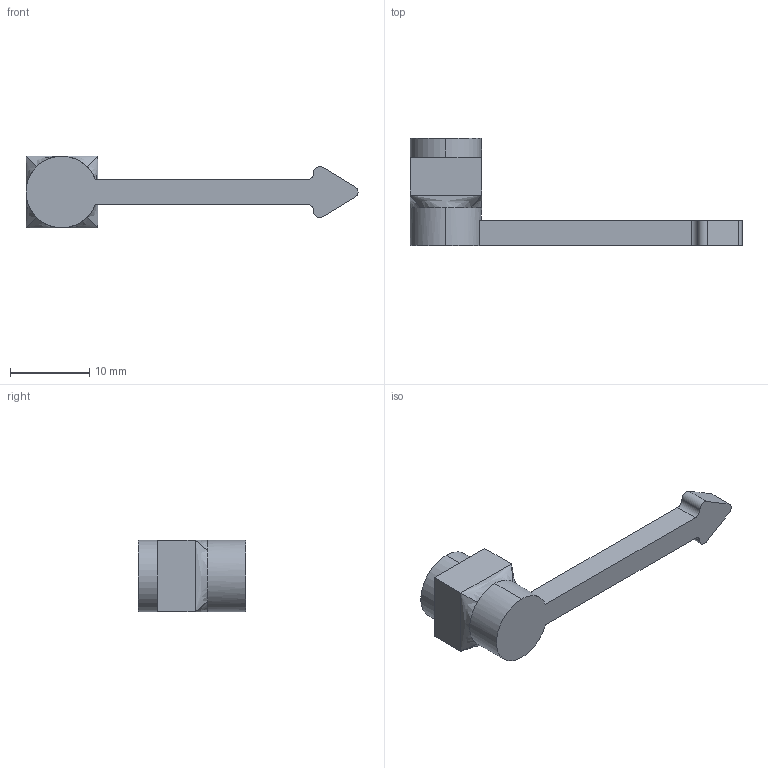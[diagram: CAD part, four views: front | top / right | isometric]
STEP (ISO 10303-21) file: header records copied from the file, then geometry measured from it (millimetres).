
FILE_DESCRIPTION (( 'STEP AP214' ), '1' );
FILE_NAME ('7 - Angle Pointer.STEP', '2022-11-25T05:45:19', ( '' ), ( '' ), 'SwSTEP 2.0', 'SolidWorks 2021', '' );
FILE_SCHEMA (( 'AUTOMOTIVE_DESIGN' ));
Length unit declared in the file: inch
Products named in the file (1): 7 - Angle Pointer
Bounding box: 41.86 x 13.49 x 9.02 mm (x, y, z)
Volume: 1307.9 mm3; surface area: 1007.4 mm2
Topology: 1 solids, 1 shells, 31 faces, 79 edges, 50 vertices
Faces by surface type: plane 17, cylinder 10, bspline 4
Entity records: 1099 total; most frequent: CARTESIAN_POINT 317, ORIENTED_EDGE 158, DIRECTION 149, EDGE_CURVE 79, AXIS2_PLACEMENT_3D 50, VERTEX_POINT 50, LINE 49, VECTOR 49
